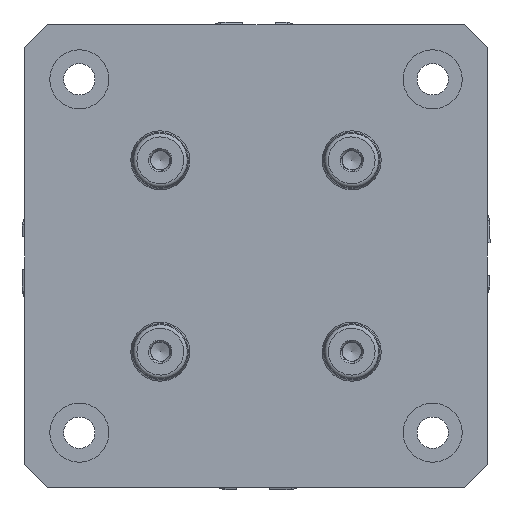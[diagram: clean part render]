
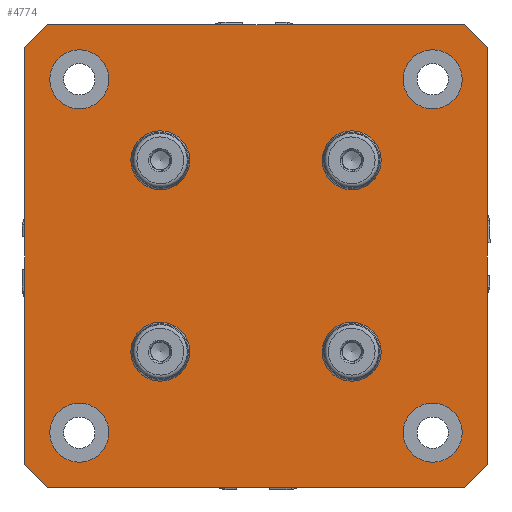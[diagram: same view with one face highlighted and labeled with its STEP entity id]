
A CAD part, front view. The second image highlights one B-rep face of the part: STEP entity #4774.
In plain terms, the highlighted planar face has unit normal (0, -1, 0).
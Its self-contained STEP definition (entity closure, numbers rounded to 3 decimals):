
#166 = DIRECTION ( 'NONE',  ( 0., 0., -1. ) ) ;
#327 = ORIENTED_EDGE ( 'NONE', *, *, #4688, .T. ) ;
#338 = EDGE_LOOP ( 'NONE', ( #6458 ) ) ;
#384 = VERTEX_POINT ( 'NONE', #10602 ) ;
#393 = CARTESIAN_POINT ( 'NONE',  ( 56.515, -7., 62.865 ) ) ;
#431 = CIRCLE ( 'NONE', #9422, 6.008 ) ;
#508 = VERTEX_POINT ( 'NONE', #3600 ) ;
#528 = DIRECTION ( 'NONE',  ( 0., -1., 0. ) ) ;
#557 = DIRECTION ( 'NONE',  ( 0., 0., -1. ) ) ;
#658 = LINE ( 'NONE', #7761, #1942 ) ;
#685 = VERTEX_POINT ( 'NONE', #393 ) ;
#937 = ORIENTED_EDGE ( 'NONE', *, *, #8331, .F. ) ;
#1056 = CARTESIAN_POINT ( 'NONE',  ( 26., -7., 26. ) ) ;
#1210 = VERTEX_POINT ( 'NONE', #7450 ) ;
#1272 = VERTEX_POINT ( 'NONE', #3102 ) ;
#1274 = CIRCLE ( 'NONE', #6778, 8.01 ) ;
#1346 = FACE_BOUND ( 'NONE', #10484, .T. ) ;
#1349 = LINE ( 'NONE', #10215, #1480 ) ;
#1385 = VERTEX_POINT ( 'NONE', #5814 ) ;
#1399 = FACE_BOUND ( 'NONE', #6029, .T. ) ;
#1480 = VECTOR ( 'NONE', #2391, 1000. ) ;
#1517 = CARTESIAN_POINT ( 'NONE',  ( -26., -7., 26. ) ) ;
#1563 = DIRECTION ( 'NONE',  ( -1., 0., 0. ) ) ;
#1670 = ORIENTED_EDGE ( 'NONE', *, *, #2093, .F. ) ;
#1755 = LINE ( 'NONE', #8585, #8809 ) ;
#1905 = DIRECTION ( 'NONE',  ( 1., 0., 0. ) ) ;
#1907 = EDGE_LOOP ( 'NONE', ( #937 ) ) ;
#1942 = VECTOR ( 'NONE', #10413, 1000. ) ;
#2093 = EDGE_CURVE ( 'NONE', #9854, #9854, #8718, .T. ) ;
#2106 = AXIS2_PLACEMENT_3D ( 'NONE', #4230, #7754, #10460 ) ;
#2132 = CARTESIAN_POINT ( 'NONE',  ( 48., -7., 48. ) ) ;
#2138 = VERTEX_POINT ( 'NONE', #9140 ) ;
#2156 = EDGE_CURVE ( 'NONE', #508, #3016, #8289, .T. ) ;
#2200 = EDGE_CURVE ( 'NONE', #8544, #384, #10346, .T. ) ;
#2234 = EDGE_CURVE ( 'NONE', #1272, #1272, #11073, .T. ) ;
#2391 = DIRECTION ( 'NONE',  ( 0.707, 0., 0.707 ) ) ;
#2575 = VERTEX_POINT ( 'NONE', #9481 ) ;
#2774 = AXIS2_PLACEMENT_3D ( 'NONE', #2132, #528, #5692 ) ;
#2842 = EDGE_LOOP ( 'NONE', ( #10109 ) ) ;
#2844 = ORIENTED_EDGE ( 'NONE', *, *, #4474, .T. ) ;
#2861 = DIRECTION ( 'NONE',  ( 0., -1., 0. ) ) ;
#2929 = DIRECTION ( 'NONE',  ( 0., -1., 0. ) ) ;
#3016 = VERTEX_POINT ( 'NONE', #8791 ) ;
#3044 = EDGE_CURVE ( 'NONE', #1385, #1385, #431, .T. ) ;
#3058 = EDGE_CURVE ( 'NONE', #9260, #9260, #6480, .T. ) ;
#3060 = EDGE_CURVE ( 'NONE', #2138, #2138, #9239, .T. ) ;
#3102 = CARTESIAN_POINT ( 'NONE',  ( -26., -7., 19.992 ) ) ;
#3118 = FACE_BOUND ( 'NONE', #4757, .T. ) ;
#3454 = EDGE_CURVE ( 'NONE', #685, #8544, #4997, .T. ) ;
#3600 = CARTESIAN_POINT ( 'NONE',  ( -56.515, -7., -62.865 ) ) ;
#3679 = ORIENTED_EDGE ( 'NONE', *, *, #2200, .T. ) ;
#3718 = AXIS2_PLACEMENT_3D ( 'NONE', #1517, #9616, #5189 ) ;
#3769 = CARTESIAN_POINT ( 'NONE',  ( 59.69, -7., 59.69 ) ) ;
#3910 = FACE_BOUND ( 'NONE', #338, .T. ) ;
#3957 = ORIENTED_EDGE ( 'NONE', *, *, #6568, .F. ) ;
#3973 = VERTEX_POINT ( 'NONE', #11315 ) ;
#4036 = CARTESIAN_POINT ( 'NONE',  ( 62.865, -7., 56.515 ) ) ;
#4054 = ORIENTED_EDGE ( 'NONE', *, *, #4387, .T. ) ;
#4230 = CARTESIAN_POINT ( 'NONE',  ( -26., -7., -26. ) ) ;
#4387 = EDGE_CURVE ( 'NONE', #9327, #7379, #9304, .T. ) ;
#4442 = VECTOR ( 'NONE', #1905, 1000. ) ;
#4474 = EDGE_CURVE ( 'NONE', #384, #3973, #658, .T. ) ;
#4621 = ORIENTED_EDGE ( 'NONE', *, *, #7468, .T. ) ;
#4688 = EDGE_CURVE ( 'NONE', #7379, #685, #10054, .T. ) ;
#4757 = EDGE_LOOP ( 'NONE', ( #6212 ) ) ;
#4759 = CARTESIAN_POINT ( 'NONE',  ( -26., -7., -32.008 ) ) ;
#4770 = ORIENTED_EDGE ( 'NONE', *, *, #2156, .T. ) ;
#4774 = ADVANCED_FACE ( 'NONE', ( #3118, #1346, #9273, #1399, #6460, #3910, #6574, #6638, #10028 ), #4843, .T. ) ;
#4785 = DIRECTION ( 'NONE',  ( -0.707, 0., -0.707 ) ) ;
#4797 = CARTESIAN_POINT ( 'NONE',  ( -48., -7., 48. ) ) ;
#4822 = AXIS2_PLACEMENT_3D ( 'NONE', #5547, #9010, #5494 ) ;
#4843 = PLANE ( 'NONE',  #6156 ) ;
#4983 = CIRCLE ( 'NONE', #2774, 8.01 ) ;
#4997 = LINE ( 'NONE', #5171, #10719 ) ;
#5061 = ORIENTED_EDGE ( 'NONE', *, *, #3454, .T. ) ;
#5171 = CARTESIAN_POINT ( 'NONE',  ( -62.865, -7., 62.865 ) ) ;
#5189 = DIRECTION ( 'NONE',  ( 0., 0., -1. ) ) ;
#5343 = CIRCLE ( 'NONE', #11027, 6.008 ) ;
#5494 = DIRECTION ( 'NONE',  ( 0., 0., -1. ) ) ;
#5547 = CARTESIAN_POINT ( 'NONE',  ( 48., -7., -48. ) ) ;
#5692 = DIRECTION ( 'NONE',  ( 0., 0., -1. ) ) ;
#5786 = EDGE_LOOP ( 'NONE', ( #2844, #10402, #4770, #4621, #4054, #327, #5061, #3679 ) ) ;
#5814 = CARTESIAN_POINT ( 'NONE',  ( 26., -7., -32.008 ) ) ;
#5838 = EDGE_LOOP ( 'NONE', ( #9200 ) ) ;
#5970 = CARTESIAN_POINT ( 'NONE',  ( -59.69, -7., 59.69 ) ) ;
#6029 = EDGE_LOOP ( 'NONE', ( #8950 ) ) ;
#6156 = AXIS2_PLACEMENT_3D ( 'NONE', #10148, #10089, #557 ) ;
#6212 = ORIENTED_EDGE ( 'NONE', *, *, #3058, .F. ) ;
#6458 = ORIENTED_EDGE ( 'NONE', *, *, #3044, .F. ) ;
#6460 = FACE_BOUND ( 'NONE', #1907, .T. ) ;
#6480 = CIRCLE ( 'NONE', #9610, 8.01 ) ;
#6550 = DIRECTION ( 'NONE',  ( 0., 0., -1. ) ) ;
#6568 = EDGE_CURVE ( 'NONE', #1210, #1210, #1274, .T. ) ;
#6574 = FACE_BOUND ( 'NONE', #6891, .T. ) ;
#6630 = DIRECTION ( 'NONE',  ( 0., 0., -1. ) ) ;
#6638 = FACE_BOUND ( 'NONE', #5838, .T. ) ;
#6720 = EDGE_CURVE ( 'NONE', #3973, #508, #1755, .T. ) ;
#6778 = AXIS2_PLACEMENT_3D ( 'NONE', #9091, #10919, #6630 ) ;
#6891 = EDGE_LOOP ( 'NONE', ( #1670 ) ) ;
#7106 = CARTESIAN_POINT ( 'NONE',  ( 26., -7., -26. ) ) ;
#7188 = CARTESIAN_POINT ( 'NONE',  ( 62.865, -7., -56.515 ) ) ;
#7231 = DIRECTION ( 'NONE',  ( -0.707, 0., 0.707 ) ) ;
#7272 = DIRECTION ( 'NONE',  ( 0., -1., 0. ) ) ;
#7379 = VERTEX_POINT ( 'NONE', #4036 ) ;
#7414 = VECTOR ( 'NONE', #7231, 1000. ) ;
#7450 = CARTESIAN_POINT ( 'NONE',  ( -48., -7., -56.01 ) ) ;
#7457 = CARTESIAN_POINT ( 'NONE',  ( 62.865, -7., 62.865 ) ) ;
#7468 = EDGE_CURVE ( 'NONE', #3016, #9327, #1349, .T. ) ;
#7525 = DIRECTION ( 'NONE',  ( 0., 0., 1. ) ) ;
#7753 = VERTEX_POINT ( 'NONE', #9419 ) ;
#7754 = DIRECTION ( 'NONE',  ( 0., -1., 0. ) ) ;
#7761 = CARTESIAN_POINT ( 'NONE',  ( -62.865, -7., 62.865 ) ) ;
#8289 = LINE ( 'NONE', #10864, #4442 ) ;
#8331 = EDGE_CURVE ( 'NONE', #2575, #2575, #5343, .T. ) ;
#8363 = DIRECTION ( 'NONE',  ( 0., 0., -1. ) ) ;
#8365 = EDGE_CURVE ( 'NONE', #7753, #7753, #4983, .T. ) ;
#8544 = VERTEX_POINT ( 'NONE', #10243 ) ;
#8585 = CARTESIAN_POINT ( 'NONE',  ( -59.69, -7., -59.69 ) ) ;
#8649 = DIRECTION ( 'NONE',  ( 0.707, 0., -0.707 ) ) ;
#8718 = CIRCLE ( 'NONE', #2106, 6.008 ) ;
#8791 = CARTESIAN_POINT ( 'NONE',  ( 56.515, -7., -62.865 ) ) ;
#8809 = VECTOR ( 'NONE', #8649, 1000. ) ;
#8950 = ORIENTED_EDGE ( 'NONE', *, *, #2234, .F. ) ;
#9010 = DIRECTION ( 'NONE',  ( 0., -1., 0. ) ) ;
#9091 = CARTESIAN_POINT ( 'NONE',  ( -48., -7., -48. ) ) ;
#9140 = CARTESIAN_POINT ( 'NONE',  ( 48., -7., -56.01 ) ) ;
#9200 = ORIENTED_EDGE ( 'NONE', *, *, #8365, .F. ) ;
#9239 = CIRCLE ( 'NONE', #4822, 8.01 ) ;
#9260 = VERTEX_POINT ( 'NONE', #10014 ) ;
#9273 = FACE_BOUND ( 'NONE', #2842, .T. ) ;
#9304 = LINE ( 'NONE', #7457, #11090 ) ;
#9327 = VERTEX_POINT ( 'NONE', #7188 ) ;
#9419 = CARTESIAN_POINT ( 'NONE',  ( 48., -7., 39.99 ) ) ;
#9422 = AXIS2_PLACEMENT_3D ( 'NONE', #7106, #2861, #166 ) ;
#9481 = CARTESIAN_POINT ( 'NONE',  ( 26., -7., 19.992 ) ) ;
#9610 = AXIS2_PLACEMENT_3D ( 'NONE', #4797, #7272, #8363 ) ;
#9616 = DIRECTION ( 'NONE',  ( 0., -1., 0. ) ) ;
#9854 = VERTEX_POINT ( 'NONE', #4759 ) ;
#10014 = CARTESIAN_POINT ( 'NONE',  ( -48., -7., 39.99 ) ) ;
#10028 = FACE_OUTER_BOUND ( 'NONE', #5786, .T. ) ;
#10054 = LINE ( 'NONE', #3769, #7414 ) ;
#10089 = DIRECTION ( 'NONE',  ( 0., -1., 0. ) ) ;
#10109 = ORIENTED_EDGE ( 'NONE', *, *, #3060, .F. ) ;
#10148 = CARTESIAN_POINT ( 'NONE',  ( 0., -7., 0. ) ) ;
#10215 = CARTESIAN_POINT ( 'NONE',  ( 59.69, -7., -59.69 ) ) ;
#10243 = CARTESIAN_POINT ( 'NONE',  ( -56.515, -7., 62.865 ) ) ;
#10346 = LINE ( 'NONE', #5970, #10867 ) ;
#10402 = ORIENTED_EDGE ( 'NONE', *, *, #6720, .T. ) ;
#10413 = DIRECTION ( 'NONE',  ( 0., 0., -1. ) ) ;
#10460 = DIRECTION ( 'NONE',  ( 0., 0., -1. ) ) ;
#10484 = EDGE_LOOP ( 'NONE', ( #3957 ) ) ;
#10602 = CARTESIAN_POINT ( 'NONE',  ( -62.865, -7., 56.515 ) ) ;
#10719 = VECTOR ( 'NONE', #1563, 1000. ) ;
#10864 = CARTESIAN_POINT ( 'NONE',  ( -62.865, -7., -62.865 ) ) ;
#10867 = VECTOR ( 'NONE', #4785, 1000. ) ;
#10919 = DIRECTION ( 'NONE',  ( 0., -1., 0. ) ) ;
#11027 = AXIS2_PLACEMENT_3D ( 'NONE', #1056, #2929, #6550 ) ;
#11073 = CIRCLE ( 'NONE', #3718, 6.008 ) ;
#11090 = VECTOR ( 'NONE', #7525, 1000. ) ;
#11315 = CARTESIAN_POINT ( 'NONE',  ( -62.865, -7., -56.515 ) ) ;
